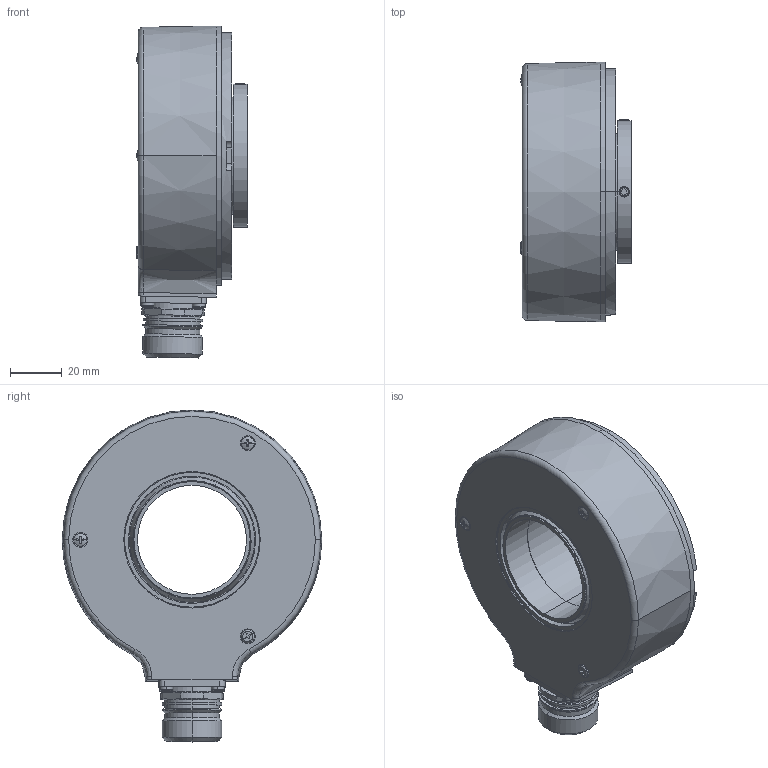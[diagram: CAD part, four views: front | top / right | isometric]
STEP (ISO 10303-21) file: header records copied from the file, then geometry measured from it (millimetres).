
FILE_DESCRIPTION (( 'STEP AP214' ), '1' );
FILE_NAME ('A020.11X2.XXXX.STEP', '2009-05-28T08:08:46', ( 'admin' ), ( 'Fritz Kübler GmbH' ), 'SwSTEP 2.0', 'SolidWorks 2009', '' );
FILE_SCHEMA (( 'AUTOMOTIVE_DESIGN' ));
Length unit declared in the file: millimetre
Products named in the file (1): A020.11X2.XXXX
Bounding box: 42.6 x 100 x 127.91 mm (x, y, z)
Volume: 137143.8 mm3; surface area: 87956.4 mm2
Topology: 29 solids, 31 shells, 1047 faces, 2509 edges, 1521 vertices
Faces by surface type: cylinder 421, plane 274, cone 188, sphere 84, torus 76, bspline 4
Entity records: 43583 total; most frequent: CARTESIAN_POINT 7514, DIRECTION 5558, ORIENTED_EDGE 4646, AXIS2_PLACEMENT_3D 2335, EDGE_CURVE 2323, VERTEX_POINT 1449, CIRCLE 1291, EDGE_LOOP 1268
